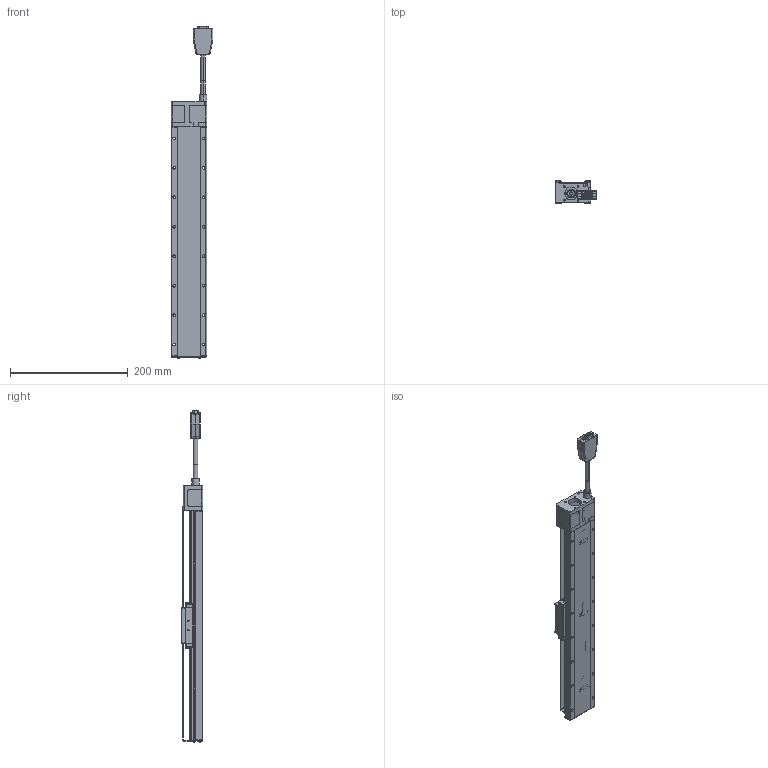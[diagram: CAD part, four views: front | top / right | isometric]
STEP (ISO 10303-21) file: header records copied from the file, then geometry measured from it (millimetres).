
FILE_DESCRIPTION (( 'STEP AP203' ), '1' );
FILE_NAME ('CXC60300-S2?N(µL°¨¹F).S', '2024-01-05T03:57:34', ( '' ), ( '' ), 'SwSTEP 2.0', 'SolidWorks 2019', '' );
FILE_SCHEMA (( 'CONFIG_CONTROL_DESIGN' ));
Length unit declared in the file: millimetre
Products named in the file (8): SG02B005_SCM435(化鎳); SD03B006_SD03B006-SCM435(化鎳); Group5^CXC60300-S2?N(28框無馬達)_defeature_GMT; SC04B006_SCM435(化鎳); CXC60300-S2OPAN-303_30; CXC60-102-10; Group4^CXC60300-S2?N(28框無馬達)_defeature_GMT; CXC60300-S2?N(無馬達)
Assembly tree (15 placements, depth 2):
  CXC60300-S2?N(無馬達)
    Group4^CXC60300-S2?N(28框無馬達)_defeature_GMT
    Group5^CXC60300-S2?N(28框無馬達)_defeature_GMT
    CXC60300-S2OPAN-303_30
    CXC60-102-10  x2
    SC04B006_SCM435(化鎳)  x4
    SD03B006_SD03B006-SCM435(化鎳)  x4
    SG02B005_SCM435(化鎳)  x2
Bounding box: 70.5 x 37 x 563.25 mm (x, y, z)
Volume: 64635.6 mm3; surface area: 199663.1 mm2
Topology: 31 solids, 34 shells, 4740 faces, 11978 edges, 7330 vertices
Faces by surface type: plane 1824, cylinder 1386, cone 601, bspline 415, torus 316, sphere 198
Entity records: 152867 total; most frequent: CARTESIAN_POINT 45586, DIRECTION 22427, ORIENTED_EDGE 22292, EDGE_CURVE 11146, AXIS2_PLACEMENT_3D 8323, VERTEX_POINT 6910, VECTOR 5781, LINE 5781
